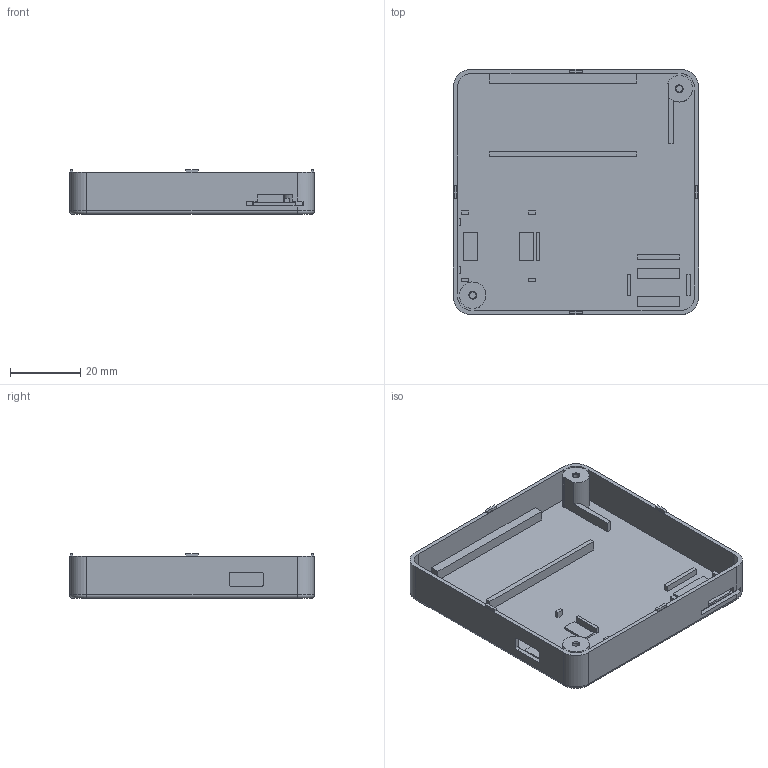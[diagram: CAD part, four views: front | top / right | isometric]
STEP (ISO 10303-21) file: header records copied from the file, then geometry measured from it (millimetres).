
FILE_DESCRIPTION(('Open CASCADE Model'),'2;1');
FILE_NAME('Open CASCADE Shape Model','2026-11-03T19:49:24',('Author'),( 'Open CASCADE'),'Open CASCADE STEP processor 7.9','Open CASCADE 7.9' ,'Unknown');
FILE_SCHEMA(('AUTOMOTIVE_DESIGN { 1 0 10303 214 1 1 1 1 }'));
Length unit declared in the file: millimetre
Products named in the file (1): Open CASCADE STEP translator 7.9 2
Bounding box: 70 x 70 x 12.8 mm (x, y, z)
Volume: 12628.5 mm3; surface area: 16734.3 mm2
Topology: 1 solids, 1 shells, 166 faces, 422 edges, 278 vertices
Faces by surface type: plane 137, cylinder 23, torus 4, cone 2
Full cylindrical faces by diameter (mm): 2 x2
Entity records: 10351 total; most frequent: CARTESIAN_POINT 1906, DIRECTION 1517, LINE 1037, VECTOR 1037, ORIENTED_EDGE 844, PCURVE 844, DEFINITIONAL_REPRESENTATION 844, EDGE_CURVE 422
